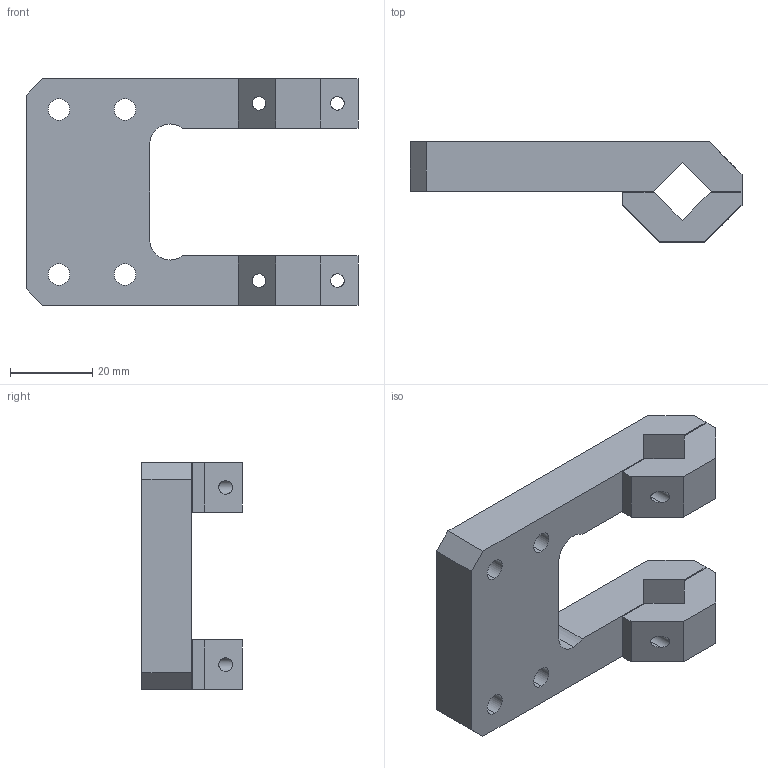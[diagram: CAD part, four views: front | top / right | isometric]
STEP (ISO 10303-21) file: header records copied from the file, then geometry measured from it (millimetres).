
FILE_DESCRIPTION (( 'STEP AP203' ), '1' );
FILE_NAME ('BC-25-ML.STEP', '2017-02-15T11:48:51', ( '' ), ( '' ), 'SwSTEP 2.0', 'SolidWorks 2012', '' );
FILE_SCHEMA (( 'CONFIG_CONTROL_DESIGN' ));
Length unit declared in the file: millimetre
Products named in the file (1): BC-25-ML
Bounding box: 80.5 x 24.29 x 55 mm (x, y, z)
Volume: 34866.9 mm3; surface area: 14002.6 mm2
Topology: 3 solids, 3 shells, 82 faces, 222 edges, 148 vertices
Faces by surface type: plane 46, cylinder 36
Entity records: 2709 total; most frequent: CARTESIAN_POINT 495, ORIENTED_EDGE 444, DIRECTION 436, EDGE_CURVE 222, VERTEX_POINT 148, LINE 146, VECTOR 146, AXIS2_PLACEMENT_3D 145
